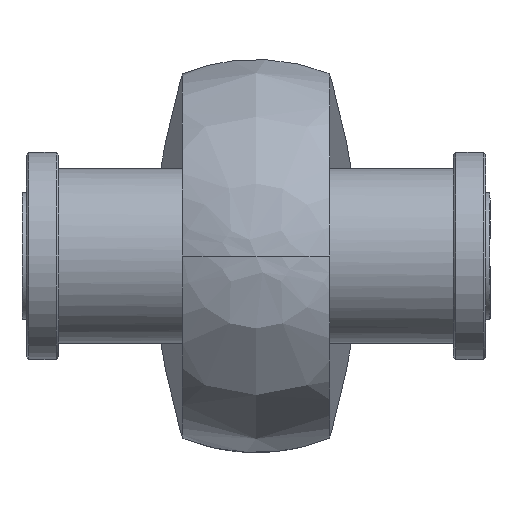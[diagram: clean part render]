
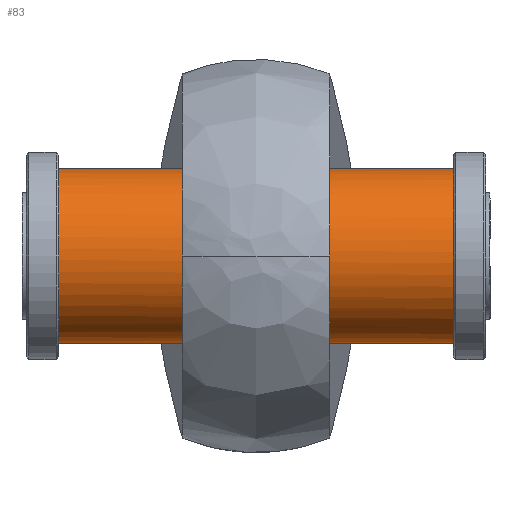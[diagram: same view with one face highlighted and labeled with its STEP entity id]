
A CAD part, left-side view. The second image highlights one B-rep face of the part: STEP entity #83.
In plain terms, the highlighted cylindrical face has radius 16 mm (diameter 32 mm), a full revolution.
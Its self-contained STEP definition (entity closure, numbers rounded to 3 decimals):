
#83=ADVANCED_FACE('',(#157),#1214,.T.);
#157=FACE_OUTER_BOUND('',#238,.T.);
#238=EDGE_LOOP('',(#506,#507,#508,#509));
#506=ORIENTED_EDGE('',*,*,#774,.T.);
#507=ORIENTED_EDGE('',*,*,#776,.T.);
#508=ORIENTED_EDGE('',*,*,#775,.T.);
#509=ORIENTED_EDGE('',*,*,#776,.F.);
#774=EDGE_CURVE('',#1128,#1128,#983,.T.);
#775=EDGE_CURVE('',#1129,#1129,#984,.T.);
#776=EDGE_CURVE('',#1128,#1129,#897,.T.);
#897=B_SPLINE_CURVE_WITH_KNOTS('',1,(#2248,#2249),.UNSPECIFIED.,.F.,.F.,
(2,2),(7.34,79.54),.UNSPECIFIED.);
#983=(
BOUNDED_CURVE()
B_SPLINE_CURVE(2,(#2230,#2231,#2232,#2233,#2234,#2235,#2236,#2237,#2238),
 .UNSPECIFIED.,.T.,.F.)
B_SPLINE_CURVE_WITH_KNOTS((3,2,2,2,3),(0.,25.133,50.265,
75.398,100.531),.UNSPECIFIED.)
CURVE()
GEOMETRIC_REPRESENTATION_ITEM()
RATIONAL_B_SPLINE_CURVE((1.,0.707,1.,0.707,1.,0.707,
1.,0.707,1.))
REPRESENTATION_ITEM('')
);
#984=(
BOUNDED_CURVE()
B_SPLINE_CURVE(2,(#2239,#2240,#2241,#2242,#2243,#2244,#2245,#2246,#2247),
 .UNSPECIFIED.,.T.,.F.)
B_SPLINE_CURVE_WITH_KNOTS((3,2,2,2,3),(0.,25.133,50.265,
75.398,100.531),.UNSPECIFIED.)
CURVE()
GEOMETRIC_REPRESENTATION_ITEM()
RATIONAL_B_SPLINE_CURVE((1.,0.707,1.,0.707,1.,0.707,
1.,0.707,1.))
REPRESENTATION_ITEM('')
);
#1128=VERTEX_POINT('',#2182);
#1129=VERTEX_POINT('',#2183);
#1214=CYLINDRICAL_SURFACE('',#1366,16.);
#1366=AXIS2_PLACEMENT_3D('',#2172,#1412,$);
#1412=DIRECTION('',(0.,-1.,0.));
#2172=CARTESIAN_POINT('',(0.,0.,0.));
#2182=CARTESIAN_POINT('',(16.,36.1,0.));
#2183=CARTESIAN_POINT('',(16.,-36.1,0.));
#2230=CARTESIAN_POINT('',(16.,36.1,0.));
#2231=CARTESIAN_POINT('',(16.,36.1,16.));
#2232=CARTESIAN_POINT('',(0.,36.1,16.));
#2233=CARTESIAN_POINT('',(-16.,36.1,16.));
#2234=CARTESIAN_POINT('',(-16.,36.1,0.));
#2235=CARTESIAN_POINT('',(-16.,36.1,-16.));
#2236=CARTESIAN_POINT('',(0.,36.1,-16.));
#2237=CARTESIAN_POINT('',(16.,36.1,-16.));
#2238=CARTESIAN_POINT('',(16.,36.1,0.));
#2239=CARTESIAN_POINT('',(16.,-36.1,0.));
#2240=CARTESIAN_POINT('',(16.,-36.1,-16.));
#2241=CARTESIAN_POINT('',(0.,-36.1,-16.));
#2242=CARTESIAN_POINT('',(-16.,-36.1,-16.));
#2243=CARTESIAN_POINT('',(-16.,-36.1,0.));
#2244=CARTESIAN_POINT('',(-16.,-36.1,16.));
#2245=CARTESIAN_POINT('',(0.,-36.1,16.));
#2246=CARTESIAN_POINT('',(16.,-36.1,16.));
#2247=CARTESIAN_POINT('',(16.,-36.1,0.));
#2248=CARTESIAN_POINT('',(16.,36.1,0.));
#2249=CARTESIAN_POINT('',(16.,-36.1,0.));
